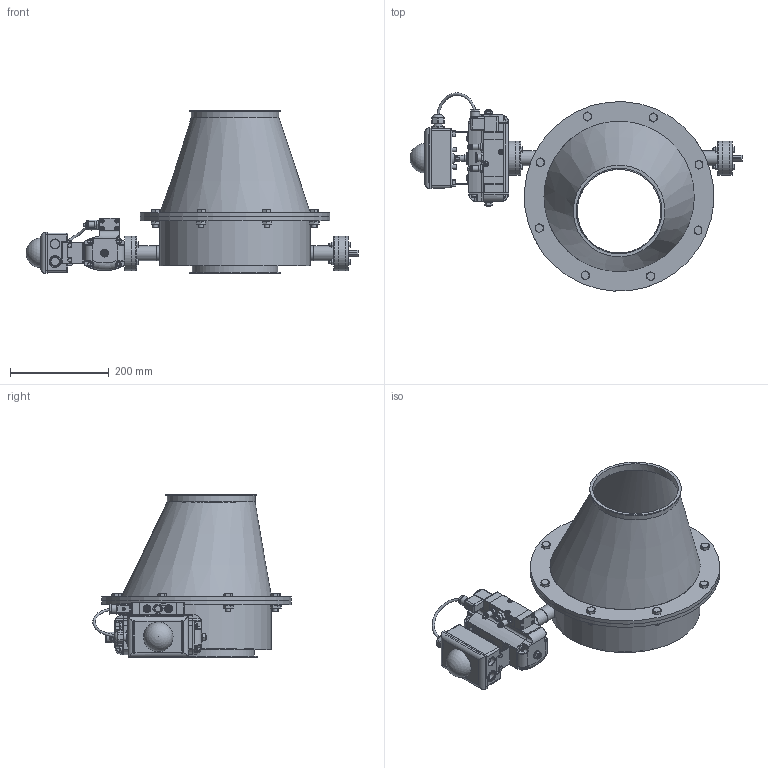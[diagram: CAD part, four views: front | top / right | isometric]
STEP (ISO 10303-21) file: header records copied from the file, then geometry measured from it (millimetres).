
FILE_DESCRIPTION((''),'2;1');
FILE_NAME('U:\Wolfgang\Marcel-3D\fertig\Kapitel 8\1721218.stp','2011-05-03T14:59:20',('TK1'),(''),'Autodesk Inventor 2010','Autodesk Inventor 2010','');
FILE_SCHEMA(('AUTOMOTIVE_DESIGN { 1 0 10303 214 1 1 1 1 }'));
Length unit declared in the file: millimetre
Products named in the file (48): 1721218; 1721218-1; 03081301; DIN EN ISO 4018 M10x30; DIN 555 - ersetzt durch DIN EN 24034 M10; wellenendeD15; Wellenende D15; Buchse D15 70-50; lagerdeckel D15; PendelkugellagerD15; DIN EN ISO 4018 M6x40; DIN 555 - ersetzt durch DIN EN 24034 M6; EndstückD15; WellenendeD15 mit Antrieb; DIN EN ISO 4018 M6x35; Pneumatischer SchwenkantriebS63D-2; Body; roter Verschluss; A1 Schwenkantrieb; Body S063D; End Cap L; End Cap R; DIN EN ISO 4762 M6 x 12; DIN EN ISO 4018 M5x10; DIN 916 M8  x  40; DIN 555 - ersetzt durch DIN EN 24034 M8; DIN 125-1 A A 8,4; DIN 125-1 A A 13; A1 Ventileinheit-2; Ventil1; Ventil1a; Ventil1b; Ventil1a_1; Ventil1b_1; ISO 7046-1 Z M4 x 25 - 4.8 - Z; Ventil1c; Ventil1d; ISO 7047 (H) M3x8 - 4.8 - H; DIN 7984 M6 x 40; DIN EN ISO 7042 M8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
Assembly tree (107 placements, depth 5):
  1721218
    1721218-1
    03081301  x2
    DIN EN ISO 4018 M10x30  x8
    DIN 555 - ersetzt durch DIN EN 24034 M10  x8
    wellenendeD15
      Wellenende D15
        Buchse D15 70-50
        lagerdeckel D15
        PendelkugellagerD15
      DIN EN ISO 4018 M6x40  x4
      DIN 555 - ersetzt durch DIN EN 24034 M6  x4
      EndstückD15
    WellenendeD15 mit Antrieb
      Buchse D15 70-50
      PendelkugellagerD15
      DIN EN ISO 4018 M6x35  x4
      Pneumatischer SchwenkantriebS63D-2
        Body
        roter Verschluss
        A1 Schwenkantrieb
          Body S063D
          End Cap L
          End Cap R
          DIN EN ISO 4762 M6 x 12  x8
          DIN EN ISO 4018 M5x10  x4
          DIN 916 M8  x  40  x2
          DIN 555 - ersetzt durch DIN EN 24034 M8  x2
          DIN 125-1 A A 8,4  x2
          DIN 125-1 A A 13  x2
        A1 Ventileinheit-2
          Ventil1
          Ventil1a
          Ventil1b
          Ventil1a_1
          Ventil1b_1
          ISO 7046-1 Z M4 x 25 - 4.8 - Z  x8
          Ventil1c
          Ventil1d
          ISO 7047 (H) M3x8 - 4.8 - H
          DIN 7984 M6 x 40  x2
          DIN EN ISO 7042 M8  x2
          DIN 125-1 A A 8,4  x2
          Ventil1e  x2
          Ventil1f  x2
          DIN EN 24766 M6 x 30  x2
          DIN 439-2 - ersetzt durch DIN EN 24035/28675 M6  x2
          entlüftung
        Halterung  x2
        DIN EN ISO 4018 M5x10  x4
        Deckel2
        Schlauch 1
Bounding box: 674 x 402.29 x 330.91 mm (x, y, z)
Volume: 3079591.7 mm3; surface area: 1257796.5 mm2
Topology: 104 solids, 105 shells, 2077 faces, 4827 edges, 3056 vertices
Faces by surface type: plane 1024, cone 426, cylinder 340, bspline 205, torus 74, sphere 8
Full cylindrical faces by diameter (mm): 2.5 x1, 3 x1, 3.242 x8, 3.571 x8, 4 x8, 4.917 x4, 5 x10, 5.5 x1, 6 x22, 6.647 x1, 8 x6, 8.4 x12, 10 x18, 11.63 x6, 11.9 x2, 12 x1, 12.5 x1, 13 x7, 14 x3, 15 x1, 15.5 x2, 15.918 x1, 16 x7, 16.918 x1, 17 x3, 17.3 x1, 17.79 x2, 18 x3, 19 x2, 21.3 x1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
Entity records: 37088 total; most frequent: CARTESIAN_POINT 12990, DIRECTION 4797, ORIENTED_EDGE 4192, EDGE_CURVE 2096, AXIS2_PLACEMENT_3D 1910, EDGE_LOOP 1508, VERTEX_POINT 1477, FACE_OUTER_BOUND 1041
